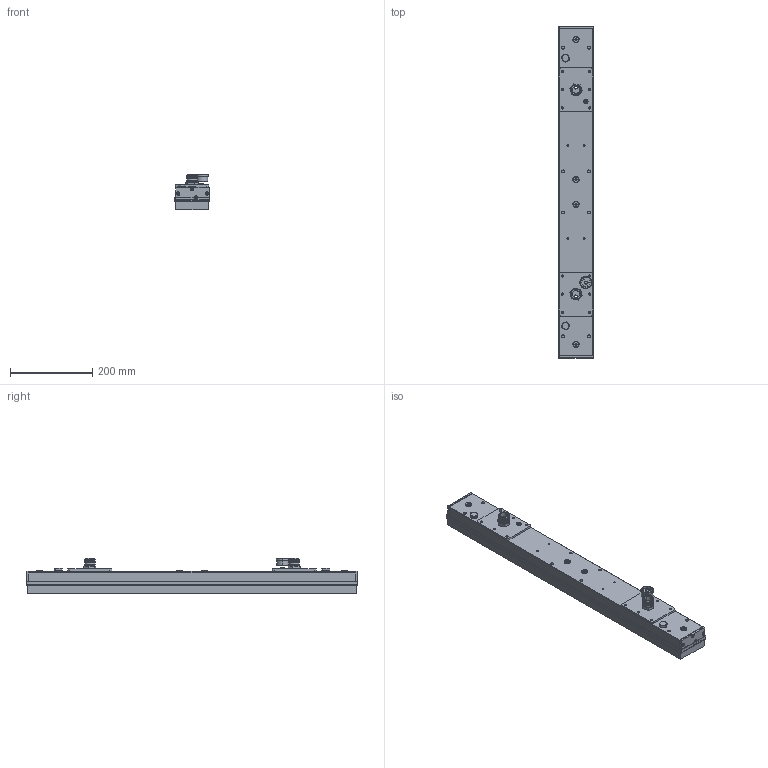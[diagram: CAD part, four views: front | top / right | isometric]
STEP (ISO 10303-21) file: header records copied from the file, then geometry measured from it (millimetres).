
FILE_DESCRIPTION (( 'STEP AP214' ), '1' );
FILE_NAME ('9671 080 015.STEP', '2008-08-14T08:15:54', ( 'Bosse' ), ( '' ), 'SwSTEP 2.0', 'SolidWorks 2008', '' );
FILE_SCHEMA (( 'AUTOMOTIVE_DESIGN' ));
Length unit declared in the file: millimetre
Products named in the file (1): 9671 080 015
Bounding box: 86 x 806 x 86 mm (x, y, z)
Surface area: 378138.3 mm2 (no closed solid volume)
Topology: 0 solids, 37 shells, 504 faces, 1695 edges, 1236 vertices
Faces by surface type: cylinder 298, plane 156, cone 42, torus 4, bspline 4
Entity records: 24983 total; most frequent: CARTESIAN_POINT 4016, DIRECTION 3487, ORIENTED_EDGE 2628, EDGE_CURVE 1695, AXIS2_PLACEMENT_3D 1389, VERTEX_POINT 1236, CIRCLE 888, EDGE_LOOP 762
